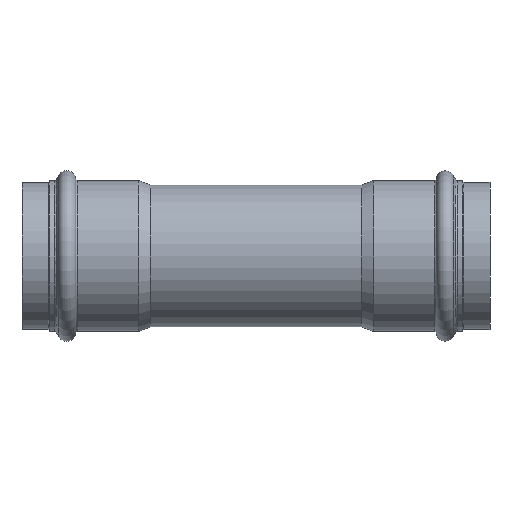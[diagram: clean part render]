
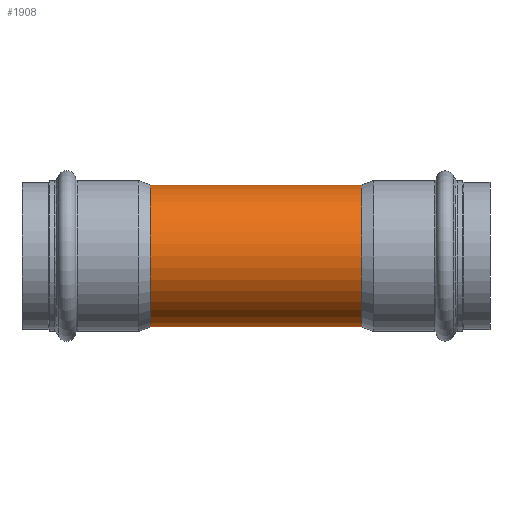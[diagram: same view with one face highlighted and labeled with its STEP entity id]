
A CAD part, front view. The second image highlights one B-rep face of the part: STEP entity #1908.
In plain terms, the highlighted cylindrical face has radius 27 mm (diameter 54 mm), a full revolution.
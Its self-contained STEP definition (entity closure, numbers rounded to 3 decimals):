
#1725=CARTESIAN_POINT('',(0.,20.413,-17.673));
#1726=VERTEX_POINT('',#1725);
#1796=CARTESIAN_POINT('',(0.,20.412,-17.673));
#1797=CARTESIAN_POINT('',(-0.694,20.413,-17.673));
#1798=CARTESIAN_POINT('',(-2.08,20.481,-17.594));
#1799=CARTESIAN_POINT('',(-4.118,20.78,-17.243));
#1800=CARTESIAN_POINT('',(-6.068,21.239,-16.678));
#1801=CARTESIAN_POINT('',(-7.925,21.824,-15.909));
#1802=CARTESIAN_POINT('',(-9.66,22.492,-14.954));
#1803=CARTESIAN_POINT('',(-11.781,23.433,-13.469));
#1804=CARTESIAN_POINT('',(-13.811,24.487,-11.488));
#1805=CARTESIAN_POINT('',(-15.564,25.491,-9.005));
#1806=CARTESIAN_POINT('',(-16.563,26.096,-7.02));
#1807=CARTESIAN_POINT('',(-17.174,26.476,-5.348));
#1808=CARTESIAN_POINT('',(-17.661,26.783,-3.615));
#1809=CARTESIAN_POINT('',(-18.017,27.011,-1.373));
#1810=CARTESIAN_POINT('',(-18.018,27.011,1.363));
#1811=CARTESIAN_POINT('',(-17.593,26.739,4.051));
#1812=CARTESIAN_POINT('',(-16.899,26.303,6.201));
#1813=CARTESIAN_POINT('',(-16.159,25.852,7.823));
#1814=CARTESIAN_POINT('',(-15.313,25.348,9.359));
#1815=CARTESIAN_POINT('',(-14.053,24.626,11.145));
#1816=CARTESIAN_POINT('',(-12.245,23.672,13.037));
#1817=CARTESIAN_POINT('',(-10.21,22.715,14.63));
#1818=CARTESIAN_POINT('',(-7.925,21.809,15.939));
#1819=CARTESIAN_POINT('',(-5.44,21.053,16.916));
#1820=CARTESIAN_POINT('',(-2.773,20.535,17.532));
#1821=CARTESIAN_POINT('',(0.002,20.351,17.743));
#1822=CARTESIAN_POINT('',(2.774,20.536,17.531));
#1823=CARTESIAN_POINT('',(5.447,21.053,16.915));
#1824=CARTESIAN_POINT('',(7.959,21.821,15.923));
#1825=CARTESIAN_POINT('',(10.222,22.72,14.622));
#1826=CARTESIAN_POINT('',(12.279,23.688,13.008));
#1827=CARTESIAN_POINT('',(13.77,24.477,11.438));
#1828=CARTESIAN_POINT('',(14.818,25.064,10.061));
#1829=CARTESIAN_POINT('',(15.615,25.526,8.836));
#1830=CARTESIAN_POINT('',(16.375,25.982,7.408));
#1831=CARTESIAN_POINT('',(17.048,26.396,5.765));
#1832=CARTESIAN_POINT('',(17.641,26.77,3.749));
#1833=CARTESIAN_POINT('',(18.018,27.012,1.359));
#1834=CARTESIAN_POINT('',(18.017,27.011,-1.378));
#1835=CARTESIAN_POINT('',(17.661,26.782,-3.619));
#1836=CARTESIAN_POINT('',(17.172,26.475,-5.354));
#1837=CARTESIAN_POINT('',(16.713,26.189,-6.608));
#1838=CARTESIAN_POINT('',(15.794,25.629,-8.627));
#1839=CARTESIAN_POINT('',(14.645,24.956,-10.381));
#1840=CARTESIAN_POINT('',(13.372,24.268,-11.843));
#1841=CARTESIAN_POINT('',(12.468,23.797,-12.775));
#1842=CARTESIAN_POINT('',(11.245,23.194,-13.845));
#1843=CARTESIAN_POINT('',(9.64,22.484,-14.966));
#1844=CARTESIAN_POINT('',(7.92,21.823,-15.91));
#1845=CARTESIAN_POINT('',(6.067,21.239,-16.678));
#1846=CARTESIAN_POINT('',(3.467,20.625,-17.432));
#1847=CARTESIAN_POINT('',(1.387,20.412,-17.673));
#1848=CARTESIAN_POINT('',(0.,20.412,-17.673));
#1849=CARTESIAN_POINT('',(0.,20.412,-17.673));
#1850=CARTESIAN_POINT('',(0.,20.412,-17.673));
#1851=CARTESIAN_POINT('',(0.,20.412,-17.673));
#1852=B_SPLINE_CURVE_WITH_KNOTS('',3,(#1796,#1797,#1798,#1799,#1800,#1801,#1802,#1803,#1804,#1805,#1806,#1807,#1808,#1809,#1810,#1811,#1812,#1813,#1814,#1815,#1816,#1817,#1818,#1819,#1820,#1821,#1822,#1823,#1824,#1825,#1826,#1827,#1828,#1829,#1830,#1831,#1832,#1833,#1834,#1835,#1836,#1837,#1838,#1839,#1840,#1841,#1842,#1843,#1844,#1845,#1846,#1847,#1848,#1849,#1850,#1851),.UNSPECIFIED.,.T.,.U.,(4,1,1,1,1,1,1,1,1,1,1,1,1,1,1,1,1,1,1,1,1,1,1,1,1,1,1,1,1,1,1,1,1,1,1,1,1,1,1,1,1,1,1,1,1,1,1,1,1,1,3,4),(-10.954,-10.759,-10.563,-10.367,-10.172,-9.976,-9.781,-9.389,-9.129,-8.868,-8.737,-8.607,-8.346,-8.085,-7.824,-7.564,-7.433,-7.303,-7.042,-6.781,-6.52,-6.26,-5.999,-5.738,-5.477,-5.216,-4.955,-4.695,-4.434,-4.173,-3.912,-3.782,-3.651,-3.478,-3.304,-3.13,-2.869,-2.608,-2.347,-2.217,-2.087,-1.956,-1.565,-1.467,-1.369,-1.174,-0.978,-0.782,-0.587,-0.391,0.0,0.),.UNSPECIFIED.);
#1853=EDGE_CURVE('',#1726,#1726,#1852,.T.);
#1878=CARTESIAN_POINT('',(0.,0.,0.0));
#1879=DIRECTION('',(1.0,0.,0.0));
#1880=DIRECTION('',(0.0,1.0,0.0));
#1881=AXIS2_PLACEMENT_3D('',#1878,#1879,#1880);
#1882=CYLINDRICAL_SURFACE('',#1881,27.);
#1883=CARTESIAN_POINT('',(-40.133,27.,0.0));
#1884=VERTEX_POINT('',#1883);
#1885=CARTESIAN_POINT('',(-40.133,0.,0.0));
#1886=DIRECTION('',(1.0,0.0,0.0));
#1887=DIRECTION('',(0.0,1.0,0.0));
#1888=AXIS2_PLACEMENT_3D('',#1885,#1886,#1887);
#1889=CIRCLE('',#1888,27.0);
#1890=EDGE_CURVE('',#1884,#1884,#1889,.T.);
#1891=ORIENTED_EDGE('',*,*,#1890,.T.);
#1892=EDGE_LOOP('',(#1891));
#1893=FACE_OUTER_BOUND('',#1892,.T.);
#1894=CARTESIAN_POINT('',(40.133,27.,0.0));
#1895=VERTEX_POINT('',#1894);
#1896=CARTESIAN_POINT('',(40.133,0.,0.0));
#1897=DIRECTION('',(1.0,0.0,0.0));
#1898=DIRECTION('',(0.0,1.0,0.0));
#1899=AXIS2_PLACEMENT_3D('',#1896,#1897,#1898);
#1900=CIRCLE('',#1899,27.);
#1901=EDGE_CURVE('',#1895,#1895,#1900,.T.);
#1902=ORIENTED_EDGE('',*,*,#1901,.F.);
#1903=EDGE_LOOP('',(#1902));
#1904=FACE_BOUND('',#1903,.T.);
#1905=ORIENTED_EDGE('',*,*,#1853,.F.);
#1906=EDGE_LOOP('',(#1905));
#1907=FACE_BOUND('',#1906,.T.);
#1908=ADVANCED_FACE('',(#1893,#1904,#1907),#1882,.T.);
